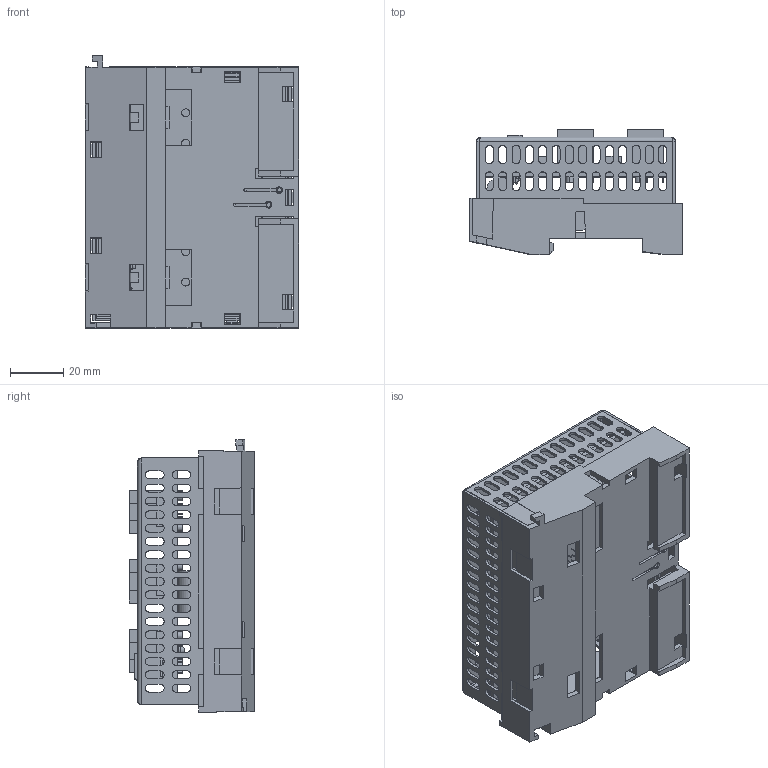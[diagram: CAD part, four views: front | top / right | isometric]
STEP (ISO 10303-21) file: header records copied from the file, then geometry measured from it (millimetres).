
FILE_DESCRIPTION (( 'STEP AP214' ), '1' );
FILE_NAME ('VBC121 support.STEP', '2016-06-02T09:46:12', ( 'SIGMATEK GmbH & Co KG' ), ( 'SIGMATEK GmbH & Co KG' ), 'SwSTEP 2.0', 'SolidWorks 2015', '' );
FILE_SCHEMA (( 'AUTOMOTIVE_DESIGN' ));
Length unit declared in the file: millimetre
Products named in the file (7): Gehäuse Syncbox V1.0; 113500_v025_20130718 support; 4080225232_2pol Buchse-Universal Mini_1-770872-0; 4080225196 RJ45 Buchse 09455511103; 113500_v025_20130718; Dias Sockel; VBC121 support
Assembly tree (11 placements, depth 3):
  VBC121 support
    Dias Sockel
    113500_v025_20130718 support
      113500_v025_20130718
      4080225196 RJ45 Buchse 09455511103  x6
      4080225232_2pol Buchse-Universal Mini_1-770872-0
    Gehäuse Syncbox V1.0
Bounding box: 79.98 x 46.9 x 102.1 mm (x, y, z)
Volume: 68090.1 mm3; surface area: 85768 mm2
Topology: 11 solids, 11 shells, 1648 faces, 4612 edges, 3037 vertices
Faces by surface type: plane 1114, cylinder 513, bspline 13, cone 8
Entity records: 48238 total; most frequent: CARTESIAN_POINT 8608, ORIENTED_EDGE 8004, DIRECTION 7522, EDGE_CURVE 4002, LINE 3156, VECTOR 3156, VERTEX_POINT 2637, AXIS2_PLACEMENT_3D 2183
